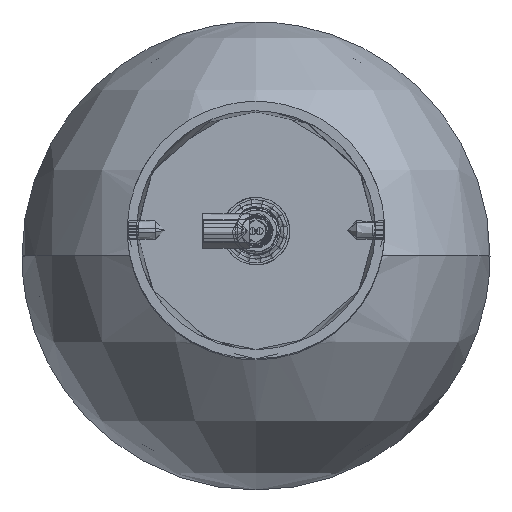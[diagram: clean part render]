
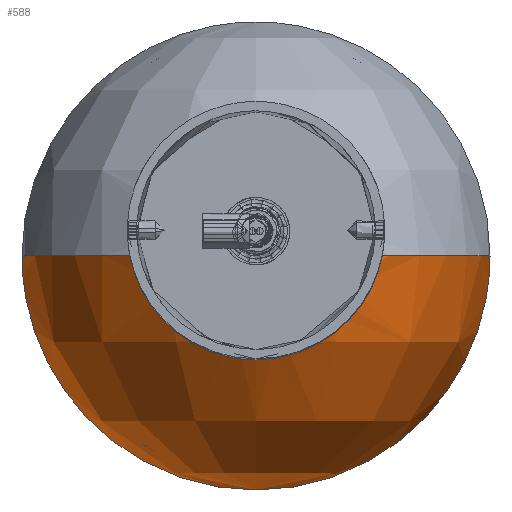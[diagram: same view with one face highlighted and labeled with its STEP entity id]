
A CAD part, top view. The second image highlights one B-rep face of the part: STEP entity #588.
In plain terms, the highlighted free-form (B-spline) face has degree [2, 2] with [5, 5] control points.
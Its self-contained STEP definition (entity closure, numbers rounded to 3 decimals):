
#588=ADVANCED_FACE('',(#1088),#7533,.T.);
#1088=FACE_OUTER_BOUND('',#1626,.T.);
#1626=EDGE_LOOP('',(#3773,#3774,#3775,#3776,#3777));
#3773=ORIENTED_EDGE('',*,*,#5095,.T.);
#3774=ORIENTED_EDGE('',*,*,#5080,.F.);
#3775=ORIENTED_EDGE('',*,*,#5085,.T.);
#3776=ORIENTED_EDGE('',*,*,#5082,.F.);
#3777=ORIENTED_EDGE('',*,*,#5086,.F.);
#5080=EDGE_CURVE('',#7032,#7038,#6305,.T.);
#5082=EDGE_CURVE('',#7034,#7031,#6307,.T.);
#5085=EDGE_CURVE('',#7032,#7031,#6310,.T.);
#5086=EDGE_CURVE('',#7035,#7034,#6311,.T.);
#5095=EDGE_CURVE('',#7035,#7038,#6320,.T.);
#6305=(
BOUNDED_CURVE()
B_SPLINE_CURVE(2,(#43551,#43552,#43553),.UNSPECIFIED.,.F.,.F.)
B_SPLINE_CURVE_WITH_KNOTS((3,3),(0.,56.592),.UNSPECIFIED.)
CURVE()
GEOMETRIC_REPRESENTATION_ITEM()
RATIONAL_B_SPLINE_CURVE((1.,0.844,1.))
REPRESENTATION_ITEM('')
);
#6307=(
BOUNDED_CURVE()
B_SPLINE_CURVE(2,(#43557,#43558,#43559),.UNSPECIFIED.,.F.,.F.)
B_SPLINE_CURVE_WITH_KNOTS((3,3),(78.54,135.132),
 .UNSPECIFIED.)
CURVE()
GEOMETRIC_REPRESENTATION_ITEM()
RATIONAL_B_SPLINE_CURVE((1.,0.844,1.))
REPRESENTATION_ITEM('')
);
#6310=(
BOUNDED_CURVE()
B_SPLINE_CURVE(2,(#43568,#43569,#43570,#43571,#43572),.UNSPECIFIED.,.F.,
 .F.)
B_SPLINE_CURVE_WITH_KNOTS((3,2,3),(-66.759,-33.379,
0.),.UNSPECIFIED.)
CURVE()
GEOMETRIC_REPRESENTATION_ITEM()
RATIONAL_B_SPLINE_CURVE((1.,0.707,1.,0.707,1.))
REPRESENTATION_ITEM('')
);
#6311=(
BOUNDED_CURVE()
B_SPLINE_CURVE(2,(#43573,#43574,#43575),.UNSPECIFIED.,.F.,.F.)
B_SPLINE_CURVE_WITH_KNOTS((3,3),(0.,78.54),.UNSPECIFIED.)
CURVE()
GEOMETRIC_REPRESENTATION_ITEM()
RATIONAL_B_SPLINE_CURVE((1.,0.707,1.))
REPRESENTATION_ITEM('')
);
#6320=(
BOUNDED_CURVE()
B_SPLINE_CURVE(2,(#43602,#43603,#43604),.UNSPECIFIED.,.F.,.F.)
B_SPLINE_CURVE_WITH_KNOTS((3,3),(0.,78.54),.UNSPECIFIED.)
CURVE()
GEOMETRIC_REPRESENTATION_ITEM()
RATIONAL_B_SPLINE_CURVE((1.,0.707,1.))
REPRESENTATION_ITEM('')
);
#7031=VERTEX_POINT('',#43516);
#7032=VERTEX_POINT('',#43517);
#7034=VERTEX_POINT('',#43519);
#7035=VERTEX_POINT('',#43520);
#7038=VERTEX_POINT('',#43523);
#7533=(
BOUNDED_SURFACE()
B_SPLINE_SURFACE(2,2,((#43338,#43339,#43340,#43341,#43342),(#43343,#43344,
#43345,#43346,#43347),(#43348,#43349,#43350,#43351,#43352),(#43353,#43354,
#43355,#43356,#43357),(#43358,#43359,#43360,#43361,#43362)),
 .UNSPECIFIED.,.F.,.F.,.F.)
B_SPLINE_SURFACE_WITH_KNOTS((3,2,3),(3,2,3),(0.,78.54,157.08),
(0.,78.54,157.08),.UNSPECIFIED.)
GEOMETRIC_REPRESENTATION_ITEM()
RATIONAL_B_SPLINE_SURFACE(((1.,0.707,1.,0.707,1.),
(0.707,0.5,0.707,0.5,0.707),(1.,0.707,
1.,0.707,1.),(0.707,0.5,0.707,0.5,0.707),
(1.,0.707,1.,0.707,1.)))
REPRESENTATION_ITEM('')
SURFACE()
);
#43338=CARTESIAN_POINT('',(0.,-1661.08,-1561.08));
#43339=CARTESIAN_POINT('',(-50.,-1661.08,-1561.08));
#43340=CARTESIAN_POINT('',(-50.,-1611.08,-1561.08));
#43341=CARTESIAN_POINT('',(-50.,-1561.08,-1561.08));
#43342=CARTESIAN_POINT('',(0.,-1561.08,-1561.08));
#43343=CARTESIAN_POINT('',(0.,-1661.08,-1561.08));
#43344=CARTESIAN_POINT('',(-50.,-1661.08,-1511.08));
#43345=CARTESIAN_POINT('',(-50.,-1611.08,-1511.08));
#43346=CARTESIAN_POINT('',(-50.,-1561.08,-1511.08));
#43347=CARTESIAN_POINT('',(0.,-1561.08,-1561.08));
#43348=CARTESIAN_POINT('',(0.,-1661.08,-1561.08));
#43349=CARTESIAN_POINT('',(0.,-1661.08,-1511.08));
#43350=CARTESIAN_POINT('',(0.,-1611.08,-1511.08));
#43351=CARTESIAN_POINT('',(0.,-1561.08,-1511.08));
#43352=CARTESIAN_POINT('',(0.,-1561.08,-1561.08));
#43353=CARTESIAN_POINT('',(0.,-1661.08,-1561.08));
#43354=CARTESIAN_POINT('',(50.,-1661.08,-1511.08));
#43355=CARTESIAN_POINT('',(50.,-1611.08,-1511.08));
#43356=CARTESIAN_POINT('',(50.,-1561.08,-1511.08));
#43357=CARTESIAN_POINT('',(0.,-1561.08,-1561.08));
#43358=CARTESIAN_POINT('',(0.,-1661.08,-1561.08));
#43359=CARTESIAN_POINT('',(50.,-1661.08,-1561.08));
#43360=CARTESIAN_POINT('',(50.,-1611.08,-1561.08));
#43361=CARTESIAN_POINT('',(50.,-1561.08,-1561.08));
#43362=CARTESIAN_POINT('',(0.,-1561.08,-1561.08));
#43516=CARTESIAN_POINT('',(-21.25,-1611.08,-1515.82));
#43517=CARTESIAN_POINT('',(21.25,-1611.08,-1515.82));
#43519=CARTESIAN_POINT('',(-50.,-1611.08,-1561.08));
#43520=CARTESIAN_POINT('',(0.,-1661.08,-1561.08));
#43523=CARTESIAN_POINT('',(50.,-1611.08,-1561.08));
#43551=CARTESIAN_POINT('',(21.25,-1611.08,-1515.82));
#43552=CARTESIAN_POINT('',(50.,-1611.08,-1529.319));
#43553=CARTESIAN_POINT('',(50.,-1611.08,-1561.08));
#43557=CARTESIAN_POINT('',(-50.,-1611.08,-1561.08));
#43558=CARTESIAN_POINT('',(-50.,-1611.08,-1529.319));
#43559=CARTESIAN_POINT('',(-21.25,-1611.08,-1515.82));
#43568=CARTESIAN_POINT('',(21.25,-1611.08,-1515.82));
#43569=CARTESIAN_POINT('',(21.25,-1632.33,-1515.82));
#43570=CARTESIAN_POINT('',(0.,-1632.33,-1515.82));
#43571=CARTESIAN_POINT('',(-21.25,-1632.33,-1515.82));
#43572=CARTESIAN_POINT('',(-21.25,-1611.08,-1515.82));
#43573=CARTESIAN_POINT('',(0.,-1661.08,-1561.08));
#43574=CARTESIAN_POINT('',(-50.,-1661.08,-1561.08));
#43575=CARTESIAN_POINT('',(-50.,-1611.08,-1561.08));
#43602=CARTESIAN_POINT('',(0.,-1661.08,-1561.08));
#43603=CARTESIAN_POINT('',(50.,-1661.08,-1561.08));
#43604=CARTESIAN_POINT('',(50.,-1611.08,-1561.08));
